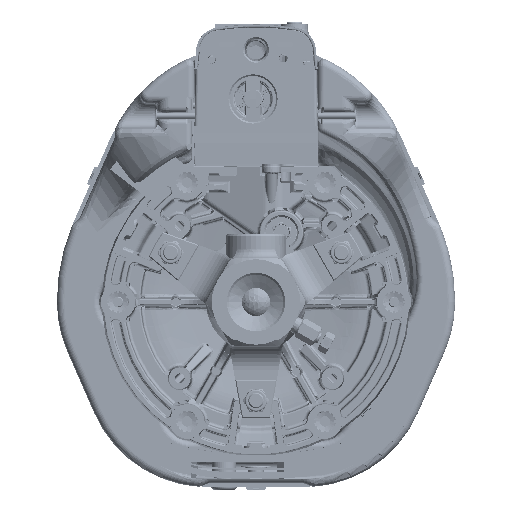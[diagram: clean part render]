
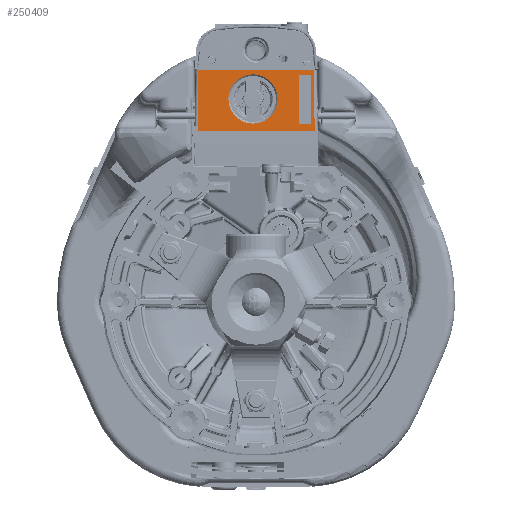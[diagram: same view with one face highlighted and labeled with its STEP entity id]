
A CAD part, front view. The second image highlights one B-rep face of the part: STEP entity #250409.
In plain terms, the highlighted planar face has unit normal (0, -1, 0).
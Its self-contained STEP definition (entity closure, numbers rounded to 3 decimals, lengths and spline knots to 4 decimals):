
#241359=DIRECTION('',(-1.,0.,0.));
#241360=VECTOR('',#241359,4.7435);
#241361=CARTESIAN_POINT('',(2.3748,-5.5,6.94));
#241362=LINE('',#241361,#241360);
#241363=DIRECTION('',(-0.017,0.,1.));
#241364=VECTOR('',#241363,0.185);
#241365=CARTESIAN_POINT('',(-2.3688,-5.5,6.94));
#241366=LINE('',#241365,#241364);
#241367=DIRECTION('',(-0.017,0.,-1.));
#241368=VECTOR('',#241367,2.2703);
#241369=CARTESIAN_POINT('',(-2.3324,-5.5,9.395));
#241370=LINE('',#241369,#241368);
#241371=DIRECTION('',(1.,0.,0.));
#241372=VECTOR('',#241371,4.6707);
#241373=CARTESIAN_POINT('',(-2.3324,-5.5,9.395));
#241374=LINE('',#241373,#241372);
#241375=DIRECTION('',(-0.017,0.,1.));
#241376=VECTOR('',#241375,2.2703);
#241377=CARTESIAN_POINT('',(2.378,-5.5,7.125));
#241378=LINE('',#241377,#241376);
#241379=DIRECTION('',(-0.017,0.,-1.));
#241380=VECTOR('',#241379,0.185);
#241381=CARTESIAN_POINT('',(2.378,-5.5,7.125));
#241382=LINE('',#241381,#241380);
#241383=CARTESIAN_POINT('',(-0.122,-5.5,8.232));
#241384=DIRECTION('',(0.,1.,0.));
#241385=DIRECTION('',(0.,0.,1.));
#241386=AXIS2_PLACEMENT_3D('',#241383,#241384,#241385);
#241388=CARTESIAN_POINT('',(-0.122,-5.5,8.232));
#241389=DIRECTION('',(0.,1.,0.));
#241390=DIRECTION('',(0.,0.,-1.));
#241391=AXIS2_PLACEMENT_3D('',#241388,#241389,#241390);
#246039=CARTESIAN_POINT('',(-2.3324,-5.5,9.395));
#246041=CARTESIAN_POINT('',(-2.372,-5.5,7.125));
#246071=CARTESIAN_POINT('',(2.378,-5.5,7.125));
#249238=VERTEX_POINT('',#246041);
#249240=VERTEX_POINT('',#246071);
#249505=VERTEX_POINT('',#246039);
#249506=CARTESIAN_POINT('',(2.3384,-5.5,9.395));
#249507=VERTEX_POINT('',#249506);
#249523=CARTESIAN_POINT('',(-2.3688,-5.5,6.94));
#249524=CARTESIAN_POINT('',(2.3748,-5.5,6.94));
#249525=VERTEX_POINT('',#249523);
#249526=VERTEX_POINT('',#249524);
#249705=CARTESIAN_POINT('',(-0.122,-5.5,9.2305));
#249706=CARTESIAN_POINT('',(-0.122,-5.5,7.2335));
#249707=VERTEX_POINT('',#249705);
#249708=VERTEX_POINT('',#249706);
#250384=CARTESIAN_POINT('',(-0.122,-5.5,8.175));
#250385=DIRECTION('',(0.,-1.,0.));
#250386=DIRECTION('',(1.,0.,0.));
#250387=AXIS2_PLACEMENT_3D('',#250384,#250385,#250386);
#250388=PLANE('',#250387);
#250390=ORIENTED_EDGE('',*,*,#250389,.T.);
#250392=ORIENTED_EDGE('',*,*,#250391,.T.);
#250394=ORIENTED_EDGE('',*,*,#250393,.F.);
#250396=ORIENTED_EDGE('',*,*,#250395,.T.);
#250398=ORIENTED_EDGE('',*,*,#250397,.F.);
#250400=ORIENTED_EDGE('',*,*,#250399,.T.);
#250401=EDGE_LOOP('',(#250390,#250392,#250394,#250396,#250398,#250400));
#250402=FACE_OUTER_BOUND('',#250401,.F.);
#250404=ORIENTED_EDGE('',*,*,#250403,.F.);
#250406=ORIENTED_EDGE('',*,*,#250405,.F.);
#250407=EDGE_LOOP('',(#250404,#250406));
#250408=FACE_BOUND('',#250407,.F.);
#250409=ADVANCED_FACE('',(#250402,#250408),#250388,.T.);
#241387=CIRCLE('',#241386,0.9985);
#241392=CIRCLE('',#241391,0.9985);
#250389=EDGE_CURVE('',#249526,#249525,#241362,.T.);
#250391=EDGE_CURVE('',#249525,#249238,#241366,.T.);
#250393=EDGE_CURVE('',#249505,#249238,#241370,.T.);
#250395=EDGE_CURVE('',#249505,#249507,#241374,.T.);
#250397=EDGE_CURVE('',#249240,#249507,#241378,.T.);
#250399=EDGE_CURVE('',#249240,#249526,#241382,.T.);
#250403=EDGE_CURVE('',#249707,#249708,#241387,.T.);
#250405=EDGE_CURVE('',#249708,#249707,#241392,.T.);
